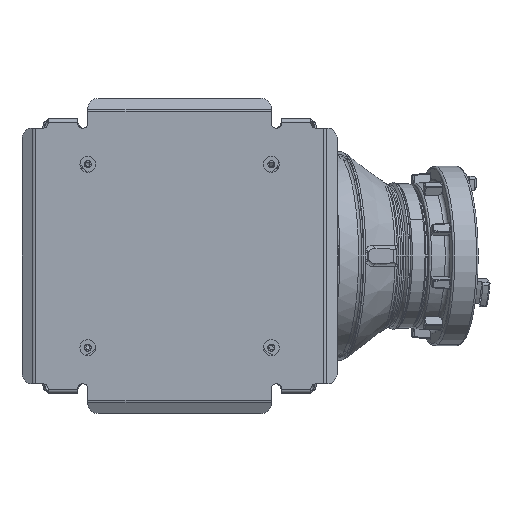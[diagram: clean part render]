
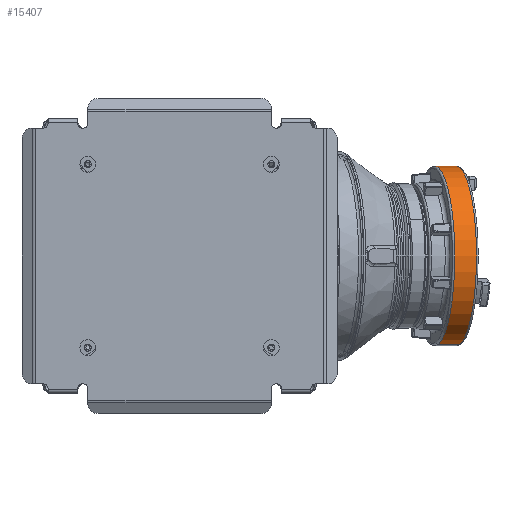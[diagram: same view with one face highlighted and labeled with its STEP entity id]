
A CAD part, front view. The second image highlights one B-rep face of the part: STEP entity #15407.
In plain terms, the highlighted cylindrical face has radius 107.442 mm (diameter 214.884 mm), a partial arc.
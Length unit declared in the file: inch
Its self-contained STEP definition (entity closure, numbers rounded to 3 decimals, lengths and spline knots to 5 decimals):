
#1100 = CARTESIAN_POINT ( 'NONE',  ( 4.32873, 0.24551, -4.16574 ) ) ;
#1107 = DIRECTION ( 'NONE',  ( -0.974, -0.225, 0. ) ) ;
#1108 = CARTESIAN_POINT ( 'NONE',  ( 5.79283, 1.33738, 0. ) ) ;
#1109 = DIRECTION ( 'NONE',  ( 0.974, 0.225, 0. ) ) ;
#1110 = DIRECTION ( 'NONE',  ( 0.039, -0.169, -0.985 ) ) ;
#1114 = CARTESIAN_POINT ( 'NONE',  ( 3.99826, 1.67692, 4.16574 ) ) ;
#1115 = DIRECTION ( 'NONE',  ( -0.974, -0.225, 0. ) ) ;
#15407 = ADVANCED_FACE ( 'NONE', ( #36398 ), #36404, .T. ) ;
#26650 = ORIENTED_EDGE ( 'NONE', *, *, #46271, .F. ) ;
#26651 = ORIENTED_EDGE ( 'NONE', *, *, #82222, .T. ) ;
#26652 = ORIENTED_EDGE ( 'NONE', *, *, #46274, .T. ) ;
#26653 = ORIENTED_EDGE ( 'NONE', *, *, #46269, .T. ) ;
#32016 = AXIS2_PLACEMENT_3D ( 'NONE', #84493, #84486, #84475 ) ;
#36398 = FACE_OUTER_BOUND ( 'NONE', #81043, .T. ) ;
#36404 = CYLINDRICAL_SURFACE ( 'NONE', #32016, 4.23 ) ;
#36850 = VERTEX_POINT ( 'NONE', #72758 ) ;
#36853 = VERTEX_POINT ( 'NONE', #72760 ) ;
#36854 = VERTEX_POINT ( 'NONE', #72761 ) ;
#36871 = VERTEX_POINT ( 'NONE', #72771 ) ;
#46269 = EDGE_CURVE ( 'NONE', #36850, #36854, #101880, .T. ) ;
#46271 = EDGE_CURVE ( 'NONE', #36853, #36854, #101889, .T. ) ;
#46274 = EDGE_CURVE ( 'NONE', #36871, #36850, #101896, .T. ) ;
#60598 = CIRCLE ( 'NONE', #95182, 4.23 ) ;
#72758 = CARTESIAN_POINT ( 'NONE',  ( 5.6276, 2.05309, 4.16574 ) ) ;
#72760 = CARTESIAN_POINT ( 'NONE',  ( 6.98115, 0.85787, -4.16574 ) ) ;
#72761 = CARTESIAN_POINT ( 'NONE',  ( 5.95807, 0.62167, -4.16574 ) ) ;
#72771 = CARTESIAN_POINT ( 'NONE',  ( 6.65069, 2.28929, 4.16574 ) ) ;
#81043 = EDGE_LOOP ( 'NONE', ( #26650, #26651, #26652, #26653 ) ) ;
#82222 = EDGE_CURVE ( 'NONE', #36853, #36871, #60598, .T. ) ;
#84475 = DIRECTION ( 'NONE',  ( -0.039, 0.169, 0.985 ) ) ;
#84486 = DIRECTION ( 'NONE',  ( -0.974, -0.225, 0. ) ) ;
#84493 = CARTESIAN_POINT ( 'NONE',  ( 4.16349, 0.96122, 0. ) ) ;
#93810 = CARTESIAN_POINT ( 'NONE',  ( 6.81592, 1.57358, 0. ) ) ;
#93811 = DIRECTION ( 'NONE',  ( -0.974, -0.225, 0. ) ) ;
#93812 = DIRECTION ( 'NONE',  ( -0.039, 0.169, 0.985 ) ) ;
#94549 = AXIS2_PLACEMENT_3D ( 'NONE', #1108, #1109, #1110 ) ;
#95182 = AXIS2_PLACEMENT_3D ( 'NONE', #93810, #93811, #93812 ) ;
#101880 = CIRCLE ( 'NONE', #94549, 4.23 ) ;
#101889 = LINE ( 'NONE', #1100, #101892 ) ;
#101892 = VECTOR ( 'NONE', #1107, 39.37008 ) ;
#101896 = LINE ( 'NONE', #1114, #101901 ) ;
#101901 = VECTOR ( 'NONE', #1115, 39.37008 ) ;
